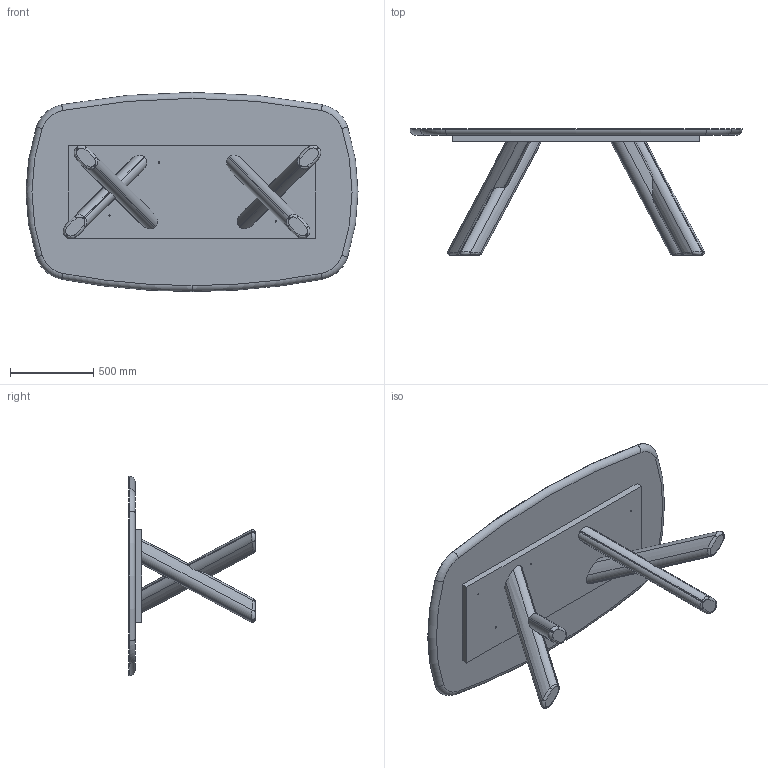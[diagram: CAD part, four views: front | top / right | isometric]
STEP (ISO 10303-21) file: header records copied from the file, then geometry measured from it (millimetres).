
FILE_DESCRIPTION (( 'STEP AP203' ), '1' );
FILE_NAME ('CN41W_CANOVA_top legno 200x120x76h sag.STEP', '2025-04-15T07:12:28', ( '' ), ( '' ), 'SwSTEP 2.0', 'SolidWorks 2022', '' );
FILE_SCHEMA (( 'CONFIG_CONTROL_DESIGN' ));
Length unit declared in the file: millimetre
Products named in the file (5): CAMP_00056-00-Assieme Basamento con gambe in legno incrociate_leggero; CAMP_00058-00-Gamba in legno Interna_leggero; CN41W_CANOVA_top legno 200x120x76h sag; PIANI_modello 3D x web_Legno 200x120 sag; CAMP_00057-00-Gamba in legno Esterna_leggero
Assembly tree (5 placements, depth 3):
  CN41W_CANOVA_top legno 200x120x76h sag
    PIANI_modello 3D x web_Legno 200x120 sag
    CAMP_00056-00-Assieme Basamento con gambe in legno incrociate_leggero  x2
      CAMP_00057-00-Gamba in legno Esterna_leggero
      CAMP_00058-00-Gamba in legno Interna_leggero
Bounding box: 2000 x 760 x 1200 mm (x, y, z)
Volume: 152304249.8 mm3; surface area: 7754293.8 mm2
Topology: 6 solids, 6 shells, 174 faces, 419 edges, 263 vertices
Faces by surface type: cylinder 99, bspline 36, plane 22, torus 9, cone 8
Entity records: 4625 total; most frequent: CARTESIAN_POINT 1638, ORIENTED_EDGE 536, DIRECTION 502, EDGE_CURVE 268, AXIS2_PLACEMENT_3D 211, VERTEX_POINT 169, EDGE_LOOP 133, CIRCLE 110
